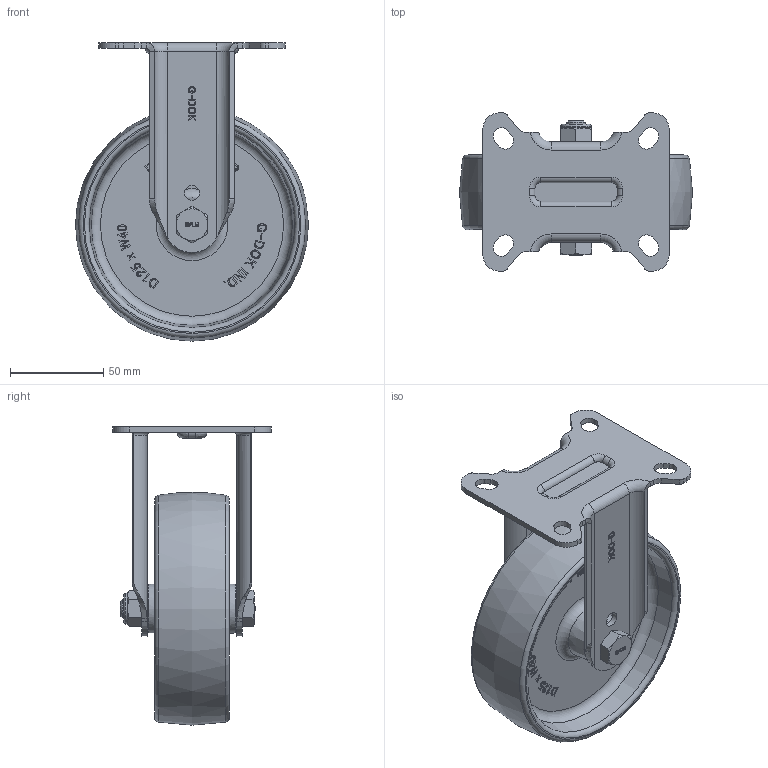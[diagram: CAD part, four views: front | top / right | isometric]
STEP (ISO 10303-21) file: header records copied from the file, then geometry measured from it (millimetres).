
FILE_DESCRIPTION(/* description */ (''),/* implementation_level */ '2;1');
FILE_NAME(/* name */ '\\192.168.10.38\지덕공유\1.기술연구소\2.연구개발 완료\완료_98.스테인레스캐스터 개발건_2023.10.26\제품설계\3D\홈페이지용\NYP\SPLM-125-ARF-NYP-PEU.step',/* time_stamp */ '2025-07-11T17:23:07+09:00',/* author */ ('admin'),/* organization */ ('지덕산업'),/* preprocessor_version */ 'ST-DEVELOPER v18.1',/* originating_system */ 'Autodesk Inventor 2021',/* authorisation */ '');
FILE_SCHEMA (('AUTOMOTIVE_DESIGN { 1 0 10303 214 3 1 1 }'));
Length unit declared in the file: millimetre
Products named in the file (1): SPLM-125-ARF-NYP-PEU
Bounding box: 125 x 85 x 160 mm (x, y, z)
Volume: 259582.7 mm3; surface area: 83048.8 mm2
Topology: 1 solids, 1 shells, 892 faces, 2410 edges, 1591 vertices
Faces by surface type: plane 438, bspline 360, cylinder 47, torus 24, cone 23
Full cylindrical faces by diameter (mm): 8 x2, 10 x1, 11 x1, 16.5 x1
Entity records: 28867 total; most frequent: CARTESIAN_POINT 8773, ORIENTED_EDGE 4820, DIRECTION 2918, EDGE_CURVE 2410, VERTEX_POINT 1591, LINE 1488, VECTOR 1488, EDGE_LOOP 977
